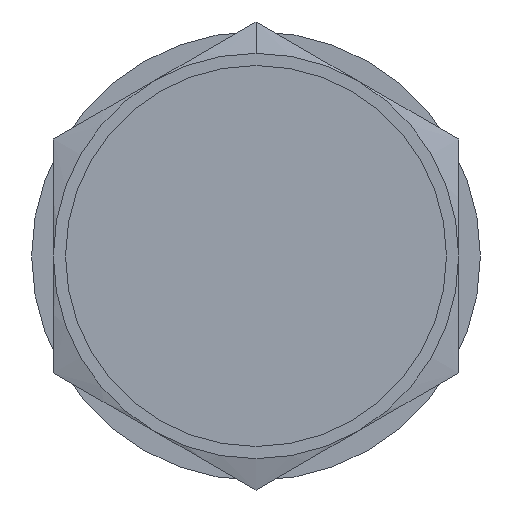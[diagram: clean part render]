
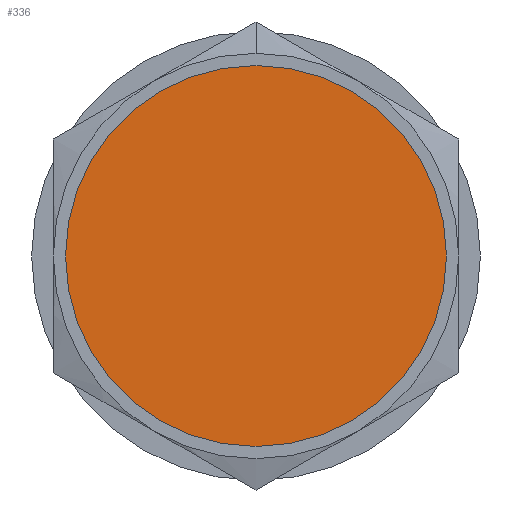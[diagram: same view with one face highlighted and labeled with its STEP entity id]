
A CAD part, front view. The second image highlights one B-rep face of the part: STEP entity #336.
In plain terms, the highlighted planar face has unit normal (0, -1, 0).
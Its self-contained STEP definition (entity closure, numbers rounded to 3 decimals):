
#127 = CARTESIAN_POINT ( 'NONE',  ( 6.579, -5.5, 0. ) ) ;
#131 = EDGE_CURVE ( 'NONE', #949, #206, #1337, .T. ) ;
#206 = VERTEX_POINT ( 'NONE', #1194 ) ;
#271 = AXIS2_PLACEMENT_3D ( 'NONE', #127, #654, #663 ) ;
#336 = ADVANCED_FACE ( 'NONE', ( #1345 ), #1510, .F. ) ;
#340 = CIRCLE ( 'NONE', #449, 6.579 ) ;
#343 = ORIENTED_EDGE ( 'NONE', *, *, #131, .T. ) ;
#449 = AXIS2_PLACEMENT_3D ( 'NONE', #1733, #1058, #767 ) ;
#509 = DIRECTION ( 'NONE',  ( 0., -1., 0. ) ) ;
#593 = AXIS2_PLACEMENT_3D ( 'NONE', #1141, #509, #1558 ) ;
#654 = DIRECTION ( 'NONE',  ( 0., 1., 0. ) ) ;
#663 = DIRECTION ( 'NONE',  ( 1., 0., 0. ) ) ;
#767 = DIRECTION ( 'NONE',  ( 0., 0., -1. ) ) ;
#915 = ORIENTED_EDGE ( 'NONE', *, *, #1727, .T. ) ;
#949 = VERTEX_POINT ( 'NONE', #1153 ) ;
#1058 = DIRECTION ( 'NONE',  ( 0., -1., 0. ) ) ;
#1141 = CARTESIAN_POINT ( 'NONE',  ( 0., -5.5, 0. ) ) ;
#1148 = EDGE_LOOP ( 'NONE', ( #915, #343 ) ) ;
#1153 = CARTESIAN_POINT ( 'NONE',  ( 0., -5.5, 6.579 ) ) ;
#1194 = CARTESIAN_POINT ( 'NONE',  ( 0., -5.5, -6.579 ) ) ;
#1337 = CIRCLE ( 'NONE', #593, 6.579 ) ;
#1345 = FACE_OUTER_BOUND ( 'NONE', #1148, .T. ) ;
#1510 = PLANE ( 'NONE',  #271 ) ;
#1558 = DIRECTION ( 'NONE',  ( 0., 0., -1. ) ) ;
#1727 = EDGE_CURVE ( 'NONE', #206, #949, #340, .T. ) ;
#1733 = CARTESIAN_POINT ( 'NONE',  ( 0., -5.5, 0. ) ) ;
